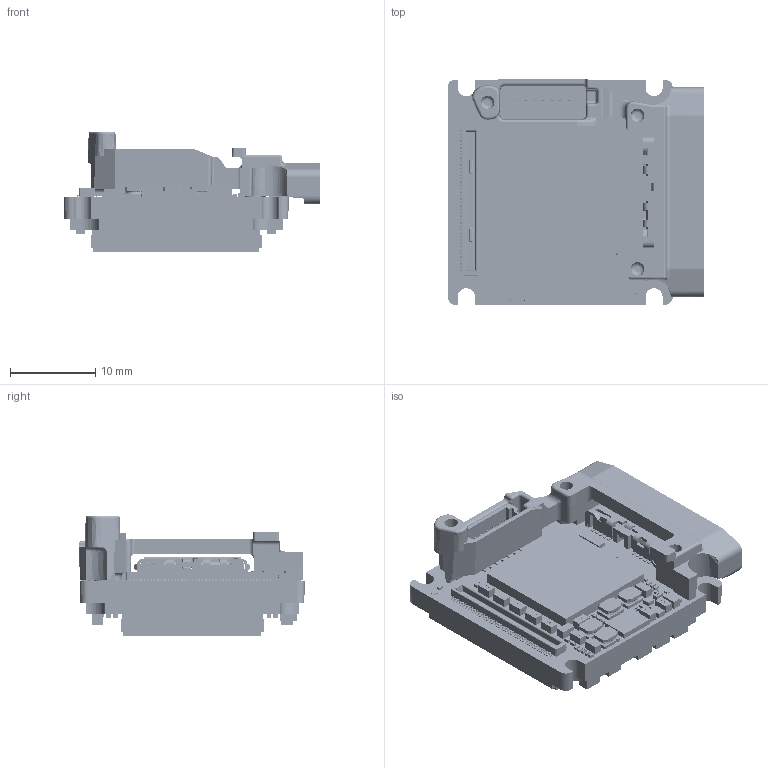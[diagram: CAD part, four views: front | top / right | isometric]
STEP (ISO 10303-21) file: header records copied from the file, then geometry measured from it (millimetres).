
FILE_DESCRIPTION (( 'STEP AP214' ), '1' );
FILE_NAME ('Alvium-USB90-Bare-Board-IMX990+991-VSWIR.STEP', '2022-11-18T09:02:57', ( '' ), ( '' ), 'SwSTEP 2.0', 'SolidWorks 2021', '' );
FILE_SCHEMA (( 'AUTOMOTIVE_DESIGN' ));
Length unit declared in the file: millimetre
Products named in the file (1): Alvium-USB90-Bare-Board-IMX990+991-VSWIR
Bounding box: 30.1 x 26.45 x 14.14 mm (x, y, z)
Volume: 4378.6 mm3; surface area: 6439.3 mm2
Topology: 185 solids, 185 shells, 12921 faces, 32536 edges, 21137 vertices
Faces by surface type: plane 6813, bspline 4773, cylinder 1241, cone 38, torus 32, sphere 24
Entity records: 801016 total; most frequent: CARTESIAN_POINT 379112, ORIENTED_EDGE 65026, DIRECTION 41497, EDGE_CURVE 32513, VERTEX_POINT 21137, LINE 20231, VECTOR 20231, EDGE_LOOP 14140
